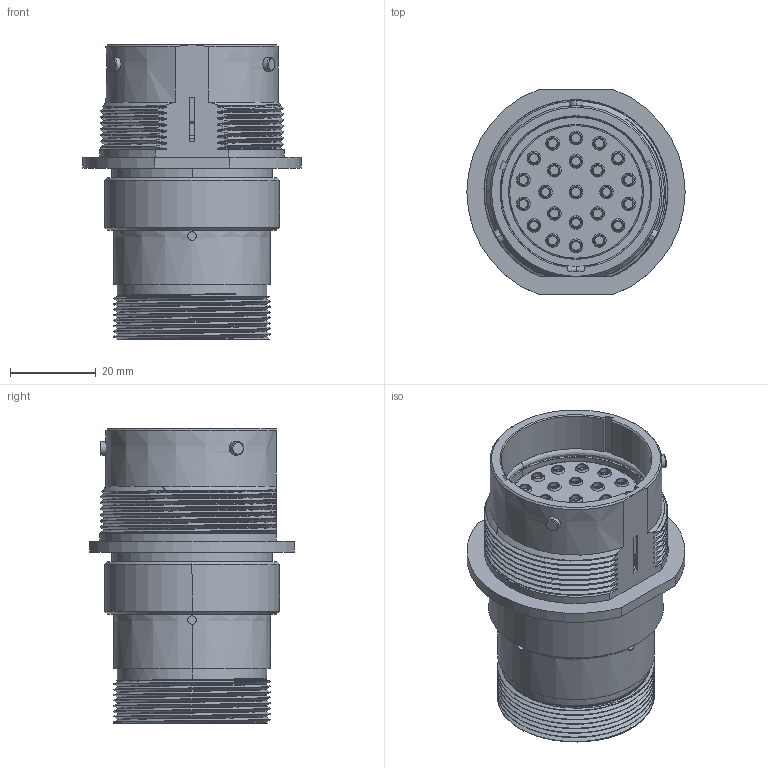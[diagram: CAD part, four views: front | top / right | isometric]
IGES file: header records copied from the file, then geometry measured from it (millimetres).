
Start section:  PTC IGES file: c-hd34-24-23pe-072-99-3d.igs
Global section: file name: c-hd34-24-23pe-072-99-3d.igs; native system: Pro/ENGINEER by Parametric Technology Corporation; preprocessor: 2010430; author: workeradm; organization: Unknown; units: millimetre
Bounding box: 50.8 x 47.62 x 68.5 mm (x, y, z)
Surface area: 20654.5 mm2 (no closed solid volume)
Topology: 0 solids, 0 shells, 501 faces, 2170 edges, 2170 vertices
Faces by surface type: revolution 328, bspline 173
